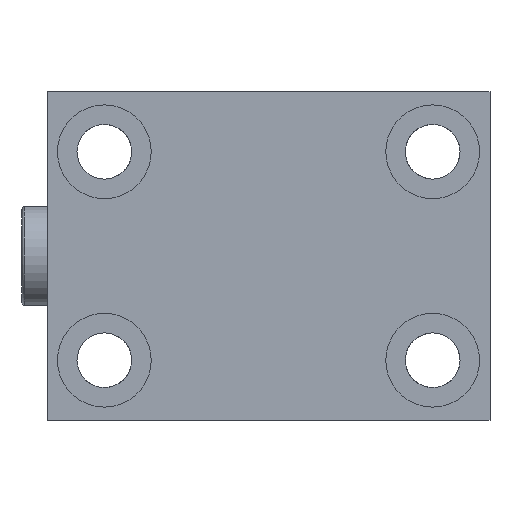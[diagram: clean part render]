
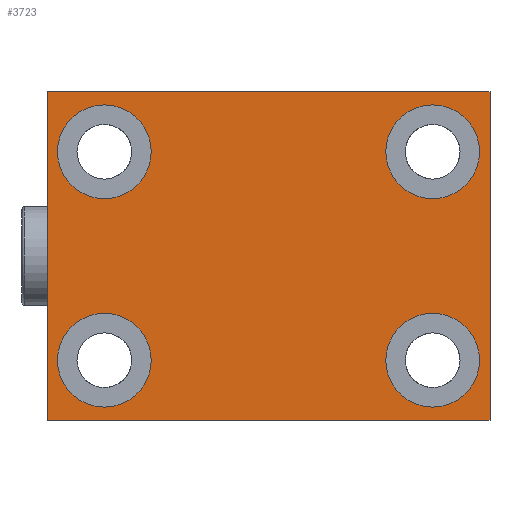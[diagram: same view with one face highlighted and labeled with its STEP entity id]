
A CAD part, front view. The second image highlights one B-rep face of the part: STEP entity #3723.
In plain terms, the highlighted planar face has unit normal (0, -1, 0).
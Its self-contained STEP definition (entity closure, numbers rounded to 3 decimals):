
#44 = CIRCLE ( 'NONE', #1923, 9. ) ;
#63 = ORIENTED_EDGE ( 'NONE', *, *, #704, .F. ) ;
#96 = CARTESIAN_POINT ( 'NONE',  ( -31.5, 0., -11. ) ) ;
#97 = DIRECTION ( 'NONE',  ( 0., 0., -1. ) ) ;
#107 = CIRCLE ( 'NONE', #3964, 9. ) ;
#198 = AXIS2_PLACEMENT_3D ( 'NONE', #1782, #4068, #1081 ) ;
#208 = VECTOR ( 'NONE', #1734, 1000. ) ;
#213 = CARTESIAN_POINT ( 'NONE',  ( -42.5, 0., 31.5 ) ) ;
#231 = ORIENTED_EDGE ( 'NONE', *, *, #2405, .F. ) ;
#239 = CIRCLE ( 'NONE', #788, 9. ) ;
#284 = CARTESIAN_POINT ( 'NONE',  ( 31.5, 0., 29. ) ) ;
#304 = EDGE_CURVE ( 'NONE', #3411, #2449, #107, .T. ) ;
#369 = DIRECTION ( 'NONE',  ( 0., 0., -1. ) ) ;
#403 = CARTESIAN_POINT ( 'NONE',  ( 42.5, 0., -31.5 ) ) ;
#471 = VERTEX_POINT ( 'NONE', #1280 ) ;
#488 = CARTESIAN_POINT ( 'NONE',  ( -42.5, 0., -31.5 ) ) ;
#563 = CARTESIAN_POINT ( 'NONE',  ( 42.5, 0., -31.5 ) ) ;
#583 = CIRCLE ( 'NONE', #3660, 9. ) ;
#704 = EDGE_CURVE ( 'NONE', #2619, #853, #2534, .T. ) ;
#736 = DIRECTION ( 'NONE',  ( 0., 0., -1. ) ) ;
#750 = CARTESIAN_POINT ( 'NONE',  ( 31.5, 0., 11. ) ) ;
#788 = AXIS2_PLACEMENT_3D ( 'NONE', #1367, #2749, #736 ) ;
#835 = EDGE_LOOP ( 'NONE', ( #2413, #3990 ) ) ;
#847 = EDGE_CURVE ( 'NONE', #853, #4117, #2597, .T. ) ;
#853 = VERTEX_POINT ( 'NONE', #1126 ) ;
#937 = ORIENTED_EDGE ( 'NONE', *, *, #3643, .F. ) ;
#992 = VERTEX_POINT ( 'NONE', #750 ) ;
#1022 = AXIS2_PLACEMENT_3D ( 'NONE', #1960, #3603, #2337 ) ;
#1044 = DIRECTION ( 'NONE',  ( 0., -1., 0. ) ) ;
#1081 = DIRECTION ( 'NONE',  ( 0., 0., -1. ) ) ;
#1105 = VECTOR ( 'NONE', #3245, 1000. ) ;
#1126 = CARTESIAN_POINT ( 'NONE',  ( -42.5, 0., 31.5 ) ) ;
#1138 = DIRECTION ( 'NONE',  ( -1., 0., 0. ) ) ;
#1144 = DIRECTION ( 'NONE',  ( 0., 0., -1. ) ) ;
#1185 = CARTESIAN_POINT ( 'NONE',  ( 31.5, 0., -20. ) ) ;
#1209 = FACE_BOUND ( 'NONE', #3525, .T. ) ;
#1244 = EDGE_CURVE ( 'NONE', #2581, #471, #1295, .T. ) ;
#1260 = ORIENTED_EDGE ( 'NONE', *, *, #1244, .F. ) ;
#1280 = CARTESIAN_POINT ( 'NONE',  ( 31.5, 0., -29. ) ) ;
#1295 = CIRCLE ( 'NONE', #3391, 9. ) ;
#1348 = ORIENTED_EDGE ( 'NONE', *, *, #3927, .F. ) ;
#1367 = CARTESIAN_POINT ( 'NONE',  ( 31.5, 0., 20. ) ) ;
#1410 = DIRECTION ( 'NONE',  ( 0., 0., -1. ) ) ;
#1468 = CARTESIAN_POINT ( 'NONE',  ( 31.5, 0., -11. ) ) ;
#1501 = ORIENTED_EDGE ( 'NONE', *, *, #304, .F. ) ;
#1513 = ORIENTED_EDGE ( 'NONE', *, *, #3589, .F. ) ;
#1520 = EDGE_CURVE ( 'NONE', #1988, #2541, #1686, .T. ) ;
#1587 = AXIS2_PLACEMENT_3D ( 'NONE', #3886, #3309, #369 ) ;
#1686 = CIRCLE ( 'NONE', #1587, 9. ) ;
#1734 = DIRECTION ( 'NONE',  ( 0., 0., 1. ) ) ;
#1766 = EDGE_CURVE ( 'NONE', #2766, #992, #1910, .T. ) ;
#1782 = CARTESIAN_POINT ( 'NONE',  ( 31.5, 0., 20. ) ) ;
#1795 = DIRECTION ( 'NONE',  ( 0., 0., -1. ) ) ;
#1809 = CARTESIAN_POINT ( 'NONE',  ( -42.5, 0., -31.5 ) ) ;
#1881 = EDGE_CURVE ( 'NONE', #471, #2581, #2475, .T. ) ;
#1910 = CIRCLE ( 'NONE', #198, 9. ) ;
#1923 = AXIS2_PLACEMENT_3D ( 'NONE', #3772, #3109, #1795 ) ;
#1960 = CARTESIAN_POINT ( 'NONE',  ( 0., 0., 0. ) ) ;
#1988 = VERTEX_POINT ( 'NONE', #2250 ) ;
#2086 = CARTESIAN_POINT ( 'NONE',  ( -31.5, 0., -29. ) ) ;
#2149 = FACE_BOUND ( 'NONE', #835, .T. ) ;
#2155 = EDGE_LOOP ( 'NONE', ( #3532, #1260 ) ) ;
#2198 = EDGE_LOOP ( 'NONE', ( #1513, #3164 ) ) ;
#2250 = CARTESIAN_POINT ( 'NONE',  ( -31.5, 0., 29. ) ) ;
#2337 = DIRECTION ( 'NONE',  ( 0., 0., 1. ) ) ;
#2396 = EDGE_CURVE ( 'NONE', #2541, #1988, #44, .T. ) ;
#2405 = EDGE_CURVE ( 'NONE', #3422, #2619, #2791, .T. ) ;
#2413 = ORIENTED_EDGE ( 'NONE', *, *, #2396, .F. ) ;
#2449 = VERTEX_POINT ( 'NONE', #2086 ) ;
#2475 = CIRCLE ( 'NONE', #3291, 9. ) ;
#2491 = DIRECTION ( 'NONE',  ( 0., -1., 0. ) ) ;
#2510 = FACE_BOUND ( 'NONE', #2155, .T. ) ;
#2516 = EDGE_LOOP ( 'NONE', ( #1348, #3130, #63, #231 ) ) ;
#2534 = LINE ( 'NONE', #3677, #208 ) ;
#2541 = VERTEX_POINT ( 'NONE', #3862 ) ;
#2581 = VERTEX_POINT ( 'NONE', #1468 ) ;
#2597 = LINE ( 'NONE', #213, #3254 ) ;
#2619 = VERTEX_POINT ( 'NONE', #1809 ) ;
#2672 = LINE ( 'NONE', #563, #1105 ) ;
#2747 = CARTESIAN_POINT ( 'NONE',  ( 31.5, 0., -20. ) ) ;
#2749 = DIRECTION ( 'NONE',  ( 0., -1., 0. ) ) ;
#2766 = VERTEX_POINT ( 'NONE', #284 ) ;
#2791 = LINE ( 'NONE', #488, #3550 ) ;
#2809 = DIRECTION ( 'NONE',  ( 0., -1., 0. ) ) ;
#3109 = DIRECTION ( 'NONE',  ( 0., -1., 0. ) ) ;
#3120 = CARTESIAN_POINT ( 'NONE',  ( -31.5, 0., -20. ) ) ;
#3130 = ORIENTED_EDGE ( 'NONE', *, *, #847, .F. ) ;
#3158 = CARTESIAN_POINT ( 'NONE',  ( 42.5, 0., 31.5 ) ) ;
#3164 = ORIENTED_EDGE ( 'NONE', *, *, #1766, .F. ) ;
#3245 = DIRECTION ( 'NONE',  ( 0., 0., -1. ) ) ;
#3254 = VECTOR ( 'NONE', #3755, 1000. ) ;
#3271 = PLANE ( 'NONE',  #1022 ) ;
#3291 = AXIS2_PLACEMENT_3D ( 'NONE', #1185, #2491, #1144 ) ;
#3309 = DIRECTION ( 'NONE',  ( 0., -1., 0. ) ) ;
#3391 = AXIS2_PLACEMENT_3D ( 'NONE', #2747, #1044, #97 ) ;
#3411 = VERTEX_POINT ( 'NONE', #96 ) ;
#3422 = VERTEX_POINT ( 'NONE', #403 ) ;
#3437 = CARTESIAN_POINT ( 'NONE',  ( -31.5, 0., -20. ) ) ;
#3464 = DIRECTION ( 'NONE',  ( 0., 0., -1. ) ) ;
#3525 = EDGE_LOOP ( 'NONE', ( #937, #1501 ) ) ;
#3532 = ORIENTED_EDGE ( 'NONE', *, *, #1881, .F. ) ;
#3550 = VECTOR ( 'NONE', #1138, 1000. ) ;
#3589 = EDGE_CURVE ( 'NONE', #992, #2766, #239, .T. ) ;
#3603 = DIRECTION ( 'NONE',  ( 0., 1., 0. ) ) ;
#3643 = EDGE_CURVE ( 'NONE', #2449, #3411, #583, .T. ) ;
#3660 = AXIS2_PLACEMENT_3D ( 'NONE', #3120, #4028, #1410 ) ;
#3677 = CARTESIAN_POINT ( 'NONE',  ( -42.5, 0., -31.5 ) ) ;
#3723 = ADVANCED_FACE ( 'NONE', ( #1209, #2510, #3871, #2149, #3760 ), #3271, .F. ) ;
#3755 = DIRECTION ( 'NONE',  ( 1., 0., 0. ) ) ;
#3760 = FACE_OUTER_BOUND ( 'NONE', #2516, .T. ) ;
#3772 = CARTESIAN_POINT ( 'NONE',  ( -31.5, 0., 20. ) ) ;
#3862 = CARTESIAN_POINT ( 'NONE',  ( -31.5, 0., 11. ) ) ;
#3871 = FACE_BOUND ( 'NONE', #2198, .T. ) ;
#3886 = CARTESIAN_POINT ( 'NONE',  ( -31.5, 0., 20. ) ) ;
#3927 = EDGE_CURVE ( 'NONE', #4117, #3422, #2672, .T. ) ;
#3964 = AXIS2_PLACEMENT_3D ( 'NONE', #3437, #2809, #3464 ) ;
#3990 = ORIENTED_EDGE ( 'NONE', *, *, #1520, .F. ) ;
#4028 = DIRECTION ( 'NONE',  ( 0., -1., 0. ) ) ;
#4068 = DIRECTION ( 'NONE',  ( 0., -1., 0. ) ) ;
#4117 = VERTEX_POINT ( 'NONE', #3158 ) ;
